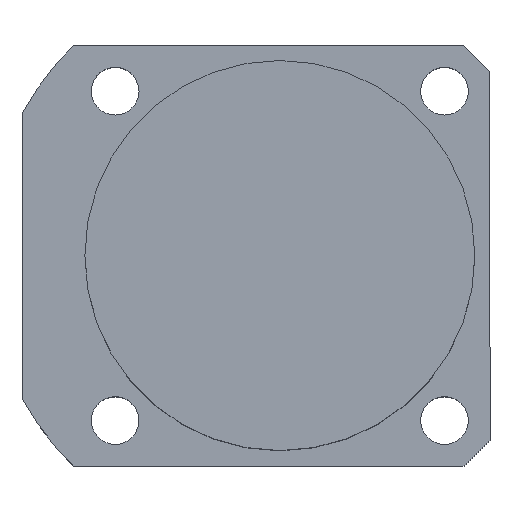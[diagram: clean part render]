
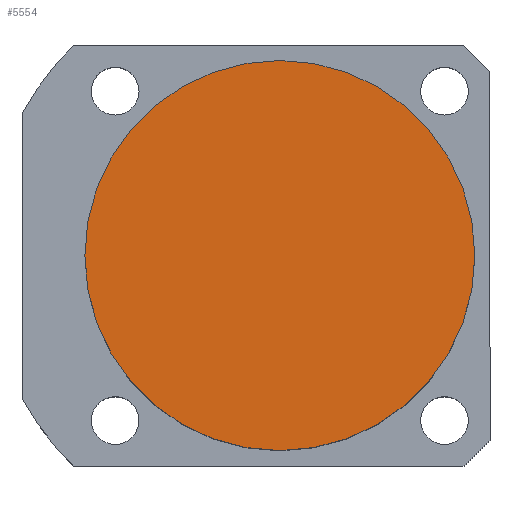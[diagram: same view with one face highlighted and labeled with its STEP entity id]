
A CAD part, top view. The second image highlights one B-rep face of the part: STEP entity #5554.
In plain terms, the highlighted planar face has unit normal (0, 0, 1).
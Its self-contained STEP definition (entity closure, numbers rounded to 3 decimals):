
#232 = EDGE_LOOP ( 'NONE', ( #1842, #435 ) ) ;
#435 = ORIENTED_EDGE ( 'NONE', *, *, #2057, .T. ) ;
#956 = CARTESIAN_POINT ( 'NONE',  ( 0., 0., 59.5 ) ) ;
#1307 = EDGE_CURVE ( 'NONE', #1621, #6590, #4435, .T. ) ;
#1380 = DIRECTION ( 'NONE',  ( 0., 0., 1. ) ) ;
#1430 = CIRCLE ( 'NONE', #4459, 45. ) ;
#1521 = DIRECTION ( 'NONE',  ( 1., 0., 0. ) ) ;
#1621 = VERTEX_POINT ( 'NONE', #5226 ) ;
#1842 = ORIENTED_EDGE ( 'NONE', *, *, #1307, .T. ) ;
#2057 = EDGE_CURVE ( 'NONE', #6590, #1621, #1430, .T. ) ;
#2265 = DIRECTION ( 'NONE',  ( 0., 0., 1. ) ) ;
#3034 = FACE_OUTER_BOUND ( 'NONE', #232, .T. ) ;
#3502 = AXIS2_PLACEMENT_3D ( 'NONE', #3561, #1380, #5227 ) ;
#3561 = CARTESIAN_POINT ( 'NONE',  ( 0., 0., 59.5 ) ) ;
#4435 = CIRCLE ( 'NONE', #7062, 45. ) ;
#4459 = AXIS2_PLACEMENT_3D ( 'NONE', #5550, #2265, #6101 ) ;
#4814 = DIRECTION ( 'NONE',  ( 0., 0., 1. ) ) ;
#4991 = CARTESIAN_POINT ( 'NONE',  ( 45., 0., 59.5 ) ) ;
#5226 = CARTESIAN_POINT ( 'NONE',  ( -45., 0., 59.5 ) ) ;
#5227 = DIRECTION ( 'NONE',  ( 1., 0., 0. ) ) ;
#5550 = CARTESIAN_POINT ( 'NONE',  ( 0., 0., 59.5 ) ) ;
#5554 = ADVANCED_FACE ( 'NONE', ( #3034 ), #6283, .T. ) ;
#6101 = DIRECTION ( 'NONE',  ( 1., 0., 0. ) ) ;
#6283 = PLANE ( 'NONE',  #3502 ) ;
#6590 = VERTEX_POINT ( 'NONE', #4991 ) ;
#7062 = AXIS2_PLACEMENT_3D ( 'NONE', #956, #4814, #1521 ) ;
